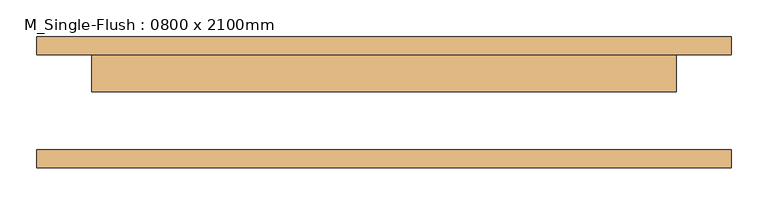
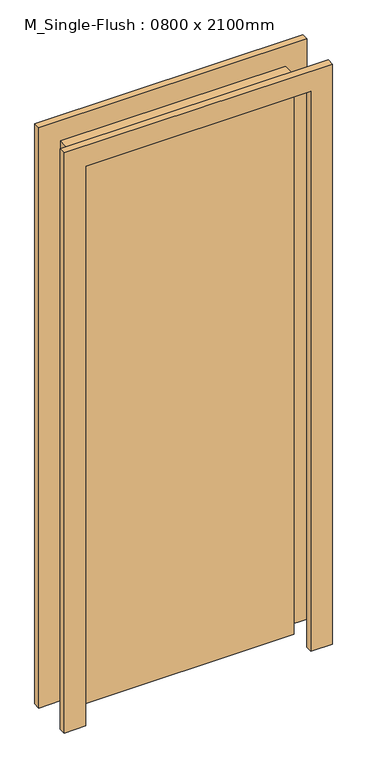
"""IFC4 building model written with IfcOpenShell, lengths in millimetres: door geometry, M_Single-Flush : 0800 x 2100mm."""

from ifc_helpers import new_model, si_unit, frame, origin, origin_with_axes, place, context, project, spatial, polyline, outline, extrude, source, transform, mapped, element, save


def m_single_flush_0800_x_2100mm_0fb022da(model_context):
    return source(origin(), model_context, "Body", "SweptSolid", [
        extrude(outline(polyline([(2176.0, -476.0), (0.0, -476.0), (0.0, -400.0), (2100.0, -400.0), (2100.0, 400.0), (0.0, 400.0), (0.0, 476.0), (2176.0, 476.0), (2176.0, -476.0)])), frame((0.0, 65.0, 0.0), z_axis=(0.0, 1.0, 0.0), x_axis=(0.0, 0.0, 1.0)), (0.0, 0.0, 1.0), 25.0),
        extrude(outline(polyline([(2176.0, 476.0), (2176.0, -476.0), (0.0, -476.0), (0.0, -400.0), (2100.0, -400.0), (2100.0, 400.0), (0.0, 400.0), (0.0, 476.0), (2176.0, 476.0)])), frame((0.0, -90.0, 0.0), z_axis=(0.0, 1.0, 0.0), x_axis=(0.0, 0.0, 1.0)), (0.0, 0.0, 1.0), 25.0),
        extrude(outline(polyline([(400.0, 14.0), (-400.0, 14.0), (-400.0, 65.0), (400.0, 65.0), (400.0, 14.0)])), origin_with_axes(), (0.0, 0.0, 1.0), 2100.0),
    ])


if __name__ == "__main__":
    model = new_model("IFC4")
    model_context = context("Model", 3, world=origin())
    ifc_project = project(units=[si_unit("LENGTHUNIT", "METRE", prefix="MILLI")], contexts=[model_context])
    site = spatial("IfcSite", under=ifc_project)
    building = spatial("IfcBuilding", under=site)
    placement = place(None, origin())
    m_single_flush_0800_x_2100mm_shape = m_single_flush_0800_x_2100mm_0fb022da(model_context)
    element("IfcDoor", 1, ObjectType="M_Single-Flush : 0800 x 2100mm", at=placement, inside=building, context=model_context, shape_type="MappedRepresentation", body=[
        mapped(m_single_flush_0800_x_2100mm_shape, transform((0.0, 0.0, 0.0), x_axis=(1.0, 0.0, 0.0), y_axis=(0.0, 1.0, 0.0), z_axis=(0.0, 0.0, 1.0))),
    ])
    save(model, "model.ifc")
